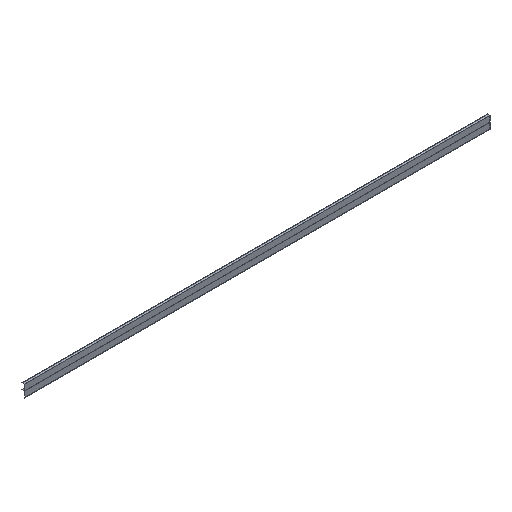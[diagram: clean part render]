
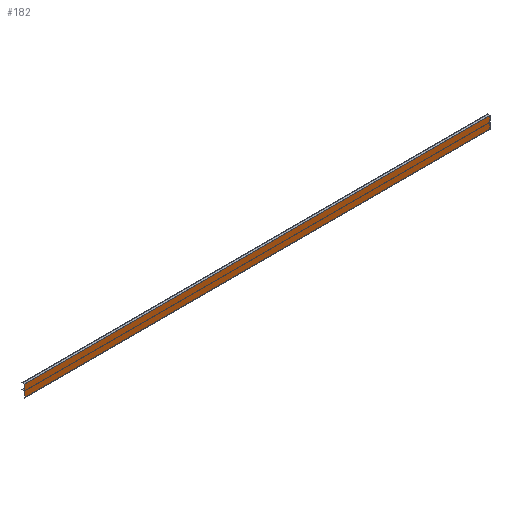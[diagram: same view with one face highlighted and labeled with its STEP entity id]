
A CAD part, isometric view. The second image highlights one B-rep face of the part: STEP entity #182.
In plain terms, the highlighted planar face has unit normal (0, -1, 0).
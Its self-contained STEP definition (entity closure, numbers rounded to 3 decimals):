
#182=ADVANCED_FACE('',(#372),#373,.T.);
#372=FACE_OUTER_BOUND('',#563,.T.);
#373=PLANE('',#564);
#563=EDGE_LOOP('',(#1053,#1054,#1055,#1056));
#564=AXIS2_PLACEMENT_3D('',#1057,#1058,#1059);
#1053=ORIENTED_EDGE('',*,*,#1317,.T.);
#1054=ORIENTED_EDGE('',*,*,#1347,.F.);
#1055=ORIENTED_EDGE('',*,*,#1348,.F.);
#1056=ORIENTED_EDGE('',*,*,#1344,.T.);
#1057=CARTESIAN_POINT('',(0.0,-15.5,0.0));
#1058=DIRECTION('',(0.0,-1.0,0.0));
#1059=DIRECTION('',(0.0,0.0,-1.0));
#1317=EDGE_CURVE('',#1618,#1616,#1619,.T.);
#1344=EDGE_CURVE('',#1660,#1618,#1661,.T.);
#1347=EDGE_CURVE('',#1664,#1616,#1665,.T.);
#1348=EDGE_CURVE('',#1660,#1664,#1666,.T.);
#1616=VERTEX_POINT('',#2019);
#1618=VERTEX_POINT('',#2022);
#1619=LINE('',#2023,#2024);
#1660=VERTEX_POINT('',#2085);
#1661=LINE('',#2086,#2087);
#1664=VERTEX_POINT('',#2091);
#1665=LINE('',#2092,#2093);
#1666=LINE('',#2094,#2095);
#2019=CARTESIAN_POINT('',(2500.0,-15.5,0.0));
#2022=CARTESIAN_POINT('',(2500.0,-15.5,-65.0));
#2023=CARTESIAN_POINT('',(2500.0,-15.5,-15.25));
#2024=VECTOR('',#2346,1.0);
#2085=CARTESIAN_POINT('',(0.0,-15.5,-65.0));
#2086=CARTESIAN_POINT('',(0.0,-15.5,-65.0));
#2087=VECTOR('',#2367,1.0);
#2091=CARTESIAN_POINT('',(0.0,-15.5,0.0));
#2092=CARTESIAN_POINT('',(0.0,-15.5,0.0));
#2093=VECTOR('',#2369,1.0);
#2094=CARTESIAN_POINT('',(0.0,-15.5,-61.0));
#2095=VECTOR('',#2370,1.0);
#2346=DIRECTION('',(0.0,0.0,1.0));
#2367=DIRECTION('',(1.0,0.0,0.0));
#2369=DIRECTION('',(1.0,0.0,0.0));
#2370=DIRECTION('',(0.0,0.0,1.0));
